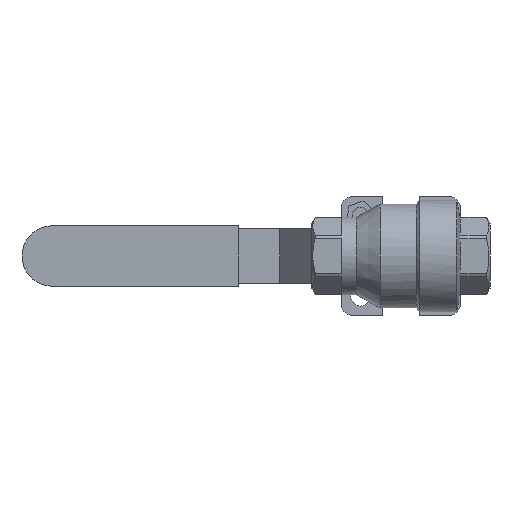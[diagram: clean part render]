
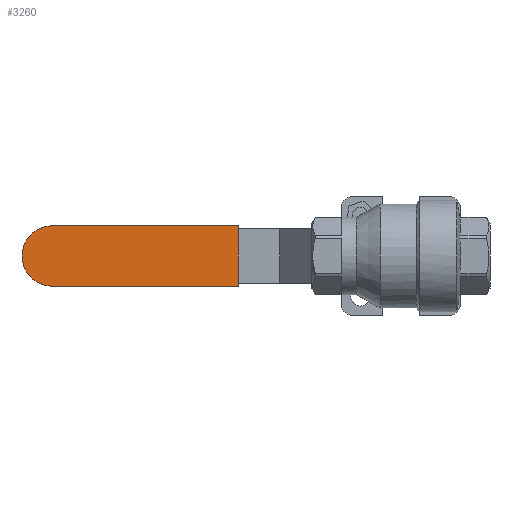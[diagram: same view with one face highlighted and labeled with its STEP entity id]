
A CAD part, front view. The second image highlights one B-rep face of the part: STEP entity #3260.
In plain terms, the highlighted planar face has unit normal (0, -1, 0).
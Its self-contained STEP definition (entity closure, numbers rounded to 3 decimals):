
#321 = ORIENTED_EDGE ( 'NONE', *, *, #413, .F. ) ;
#348 = ORIENTED_EDGE ( 'NONE', *, *, #863, .T. ) ;
#352 = ORIENTED_EDGE ( 'NONE', *, *, #1332, .T. ) ;
#381 = ORIENTED_EDGE ( 'NONE', *, *, #2042, .F. ) ;
#413 = EDGE_CURVE ( 'NONE', #3887, #3649, #3307, .T. ) ;
#671 = CARTESIAN_POINT ( 'NONE',  ( -109.5, 61.5, -9.5 ) ) ;
#751 = LINE ( 'NONE', #809, #758 ) ;
#758 = VECTOR ( 'NONE', #787, 1000. ) ;
#787 = DIRECTION ( 'NONE',  ( 0., 0., -1. ) ) ;
#809 = CARTESIAN_POINT ( 'NONE',  ( -51., 61.5, 9.5 ) ) ;
#826 = DIRECTION ( 'NONE',  ( 1., 0., 0. ) ) ;
#848 = CARTESIAN_POINT ( 'NONE',  ( -119., 61.5, 9.5 ) ) ;
#863 = EDGE_CURVE ( 'NONE', #3887, #2105, #3717, .T. ) ;
#1171 = AXIS2_PLACEMENT_3D ( 'NONE', #3750, #3749, #3742 ) ;
#1332 = EDGE_CURVE ( 'NONE', #2105, #4143, #2759, .T. ) ;
#1627 = CARTESIAN_POINT ( 'NONE',  ( -109.5, 61.5, 9.5 ) ) ;
#2042 = EDGE_CURVE ( 'NONE', #3649, #4143, #751, .T. ) ;
#2096 = EDGE_LOOP ( 'NONE', ( #321, #348, #352, #381 ) ) ;
#2105 = VERTEX_POINT ( 'NONE', #671 ) ;
#2753 = VECTOR ( 'NONE', #3071, 1000. ) ;
#2759 = LINE ( 'NONE', #3063, #2753 ) ;
#2871 = CARTESIAN_POINT ( 'NONE',  ( -51., 61.5, -9.5 ) ) ;
#2952 = CARTESIAN_POINT ( 'NONE',  ( -51., 61.5, 9.5 ) ) ;
#3063 = CARTESIAN_POINT ( 'NONE',  ( -119., 61.5, -9.5 ) ) ;
#3071 = DIRECTION ( 'NONE',  ( 1., 0., 0. ) ) ;
#3117 = FACE_OUTER_BOUND ( 'NONE', #2096, .T. ) ;
#3260 = ADVANCED_FACE ( 'NONE', ( #3117 ), #3372, .F. ) ;
#3307 = LINE ( 'NONE', #848, #4398 ) ;
#3324 = AXIS2_PLACEMENT_3D ( 'NONE', #3547, #3885, #3822 ) ;
#3372 = PLANE ( 'NONE',  #3324 ) ;
#3547 = CARTESIAN_POINT ( 'NONE',  ( -119., 61.5, 9.5 ) ) ;
#3649 = VERTEX_POINT ( 'NONE', #2952 ) ;
#3717 = CIRCLE ( 'NONE', #1171, 9.5 ) ;
#3742 = DIRECTION ( 'NONE',  ( 0., 0., 1. ) ) ;
#3749 = DIRECTION ( 'NONE',  ( 0., -1., 0. ) ) ;
#3750 = CARTESIAN_POINT ( 'NONE',  ( -109.5, 61.5, 0. ) ) ;
#3822 = DIRECTION ( 'NONE',  ( 0., 0., 1. ) ) ;
#3885 = DIRECTION ( 'NONE',  ( 0., 1., 0. ) ) ;
#3887 = VERTEX_POINT ( 'NONE', #1627 ) ;
#4143 = VERTEX_POINT ( 'NONE', #2871 ) ;
#4398 = VECTOR ( 'NONE', #826, 1000. ) ;
